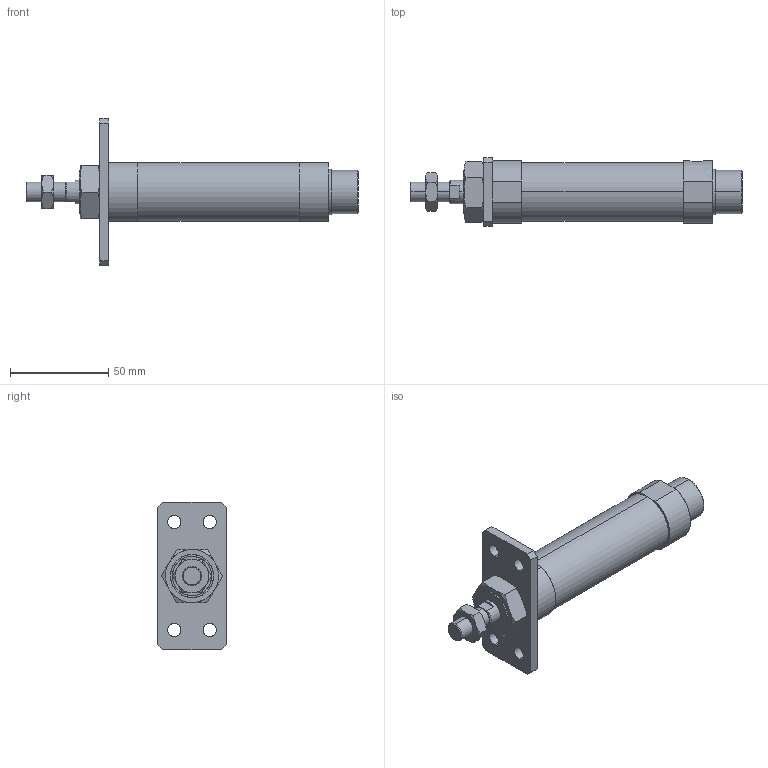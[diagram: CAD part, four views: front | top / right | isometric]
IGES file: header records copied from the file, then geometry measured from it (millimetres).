
Start section: SolidWorks IGES file using analytic representation for surfaces
Global section: file name: C:\Users\Toshiba\Desktop\J#1-25-25-A.IGS; native system: SolidWorks 2014; preprocessor: SolidWorks 2014; author: Toshiba; date: 160308.144541; units: millimetre
Bounding box: 169 x 35 x 75 mm (x, y, z)
Surface area: 24820.1 mm2 (no closed solid volume)
Topology: 0 solids, 0 shells, 113 faces, 2070 edges, 2068 vertices
Faces by surface type: bspline 71, revolution 42
